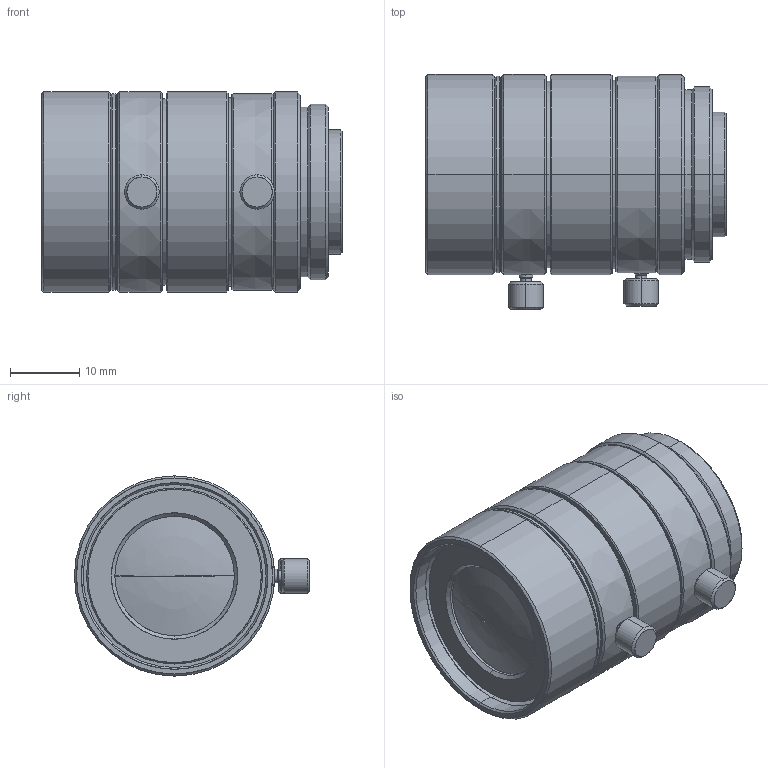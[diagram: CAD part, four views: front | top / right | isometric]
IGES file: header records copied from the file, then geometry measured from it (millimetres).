
Start section: SolidWorks IGES file using analytic representation for surfaces
Global section: file name: C:\Users\tsuji_vst\Documents\【図面】\_3D\00 VST\VS-VM\VS-1218VM.IGS; native system: SolidWorks 2016; preprocessor: SolidWorks 2016; author: tsuji_vst; date: 160510.090331; units: millimetre
Bounding box: 43.5 x 34.05 x 29 mm (x, y, z)
Surface area: 7293.4 mm2 (no closed solid volume)
Topology: 0 solids, 0 shells, 135 faces, 2188 edges, 2187 vertices
Faces by surface type: revolution 114, bspline 21
